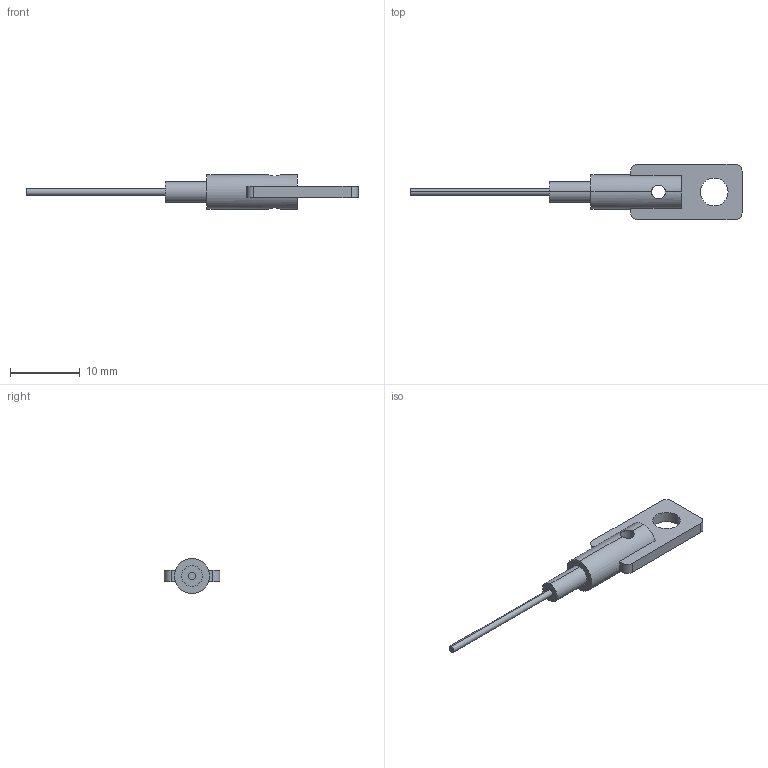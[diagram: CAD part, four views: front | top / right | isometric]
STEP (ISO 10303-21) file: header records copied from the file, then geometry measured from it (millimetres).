
FILE_DESCRIPTION (( 'STEP AP214' ), '1' );
FILE_NAME ('DMR100A_Part6.STEP', '2024-06-21T00:25:38', ( '' ), ( '' ), 'SwSTEP 2.0', 'SolidWorks 2023', '' );
FILE_SCHEMA (( 'AUTOMOTIVE_DESIGN' ));
Length unit declared in the file: millimetre
Products named in the file (1): DMR100A_Part6
Bounding box: 47.7 x 8 x 5 mm (x, y, z)
Volume: 423.9 mm3; surface area: 601.2 mm2
Topology: 1 solids, 1 shells, 26 faces, 68 edges, 44 vertices
Faces by surface type: cylinder 14, plane 12
Entity records: 899 total; most frequent: CARTESIAN_POINT 207, DIRECTION 146, ORIENTED_EDGE 136, EDGE_CURVE 68, AXIS2_PLACEMENT_3D 55, VERTEX_POINT 44, VECTOR 36, LINE 36
